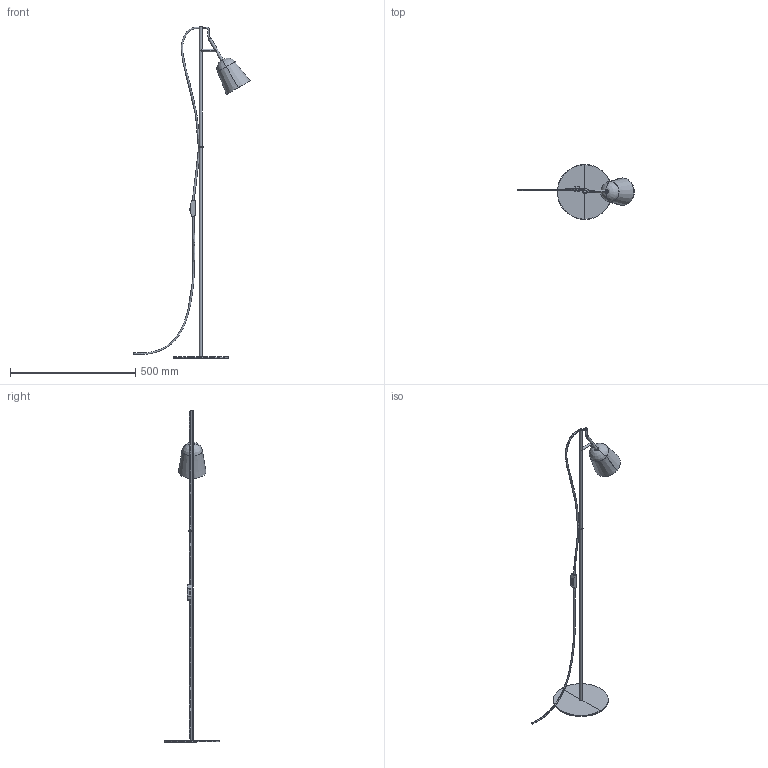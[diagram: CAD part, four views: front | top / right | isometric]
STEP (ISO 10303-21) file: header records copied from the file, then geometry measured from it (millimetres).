
FILE_DESCRIPTION(/* description */ (''),/* implementation_level */ '2;1');
FILE_NAME(/* name */ '28254.step',/* time_stamp */ '2024-06-05T11:03:19+02:00',/* author */ ('RenataManzini'),/* organization */ (''),/* preprocessor_version */ 'ST-DEVELOPER v20',/* originating_system */ 'AutoCAD Mechanical',/* authorisation */ '');
FILE_SCHEMA (('AUTOMOTIVE_DESIGN { 1 0 10303 214 3 1 1 }'));
Products named in the file (2): Product; studio_pie_salon - STUDIO-629809-_3D_
Assembly tree (1 placements, depth 2):
  Product
    studio_pie_salon - STUDIO-629809-_3D_
Bounding box: 465.55 x 220 x 1328 mm (x, y, z)
Volume: 582015 mm3; surface area: 254104.3 mm2
Topology: 8 solids, 8 shells, 84 faces, 177 edges, 108 vertices
Faces by surface type: plane 39, cylinder 21, bspline 16, cone 4, torus 4
Entity records: 63428 total; most frequent: CARTESIAN_POINT 61686, ORIENTED_EDGE 344, DIRECTION 340, EDGE_CURVE 172, AXIS2_PLACEMENT_3D 136, VERTEX_POINT 103, EDGE_LOOP 87, FACE_OUTER_BOUND 84
